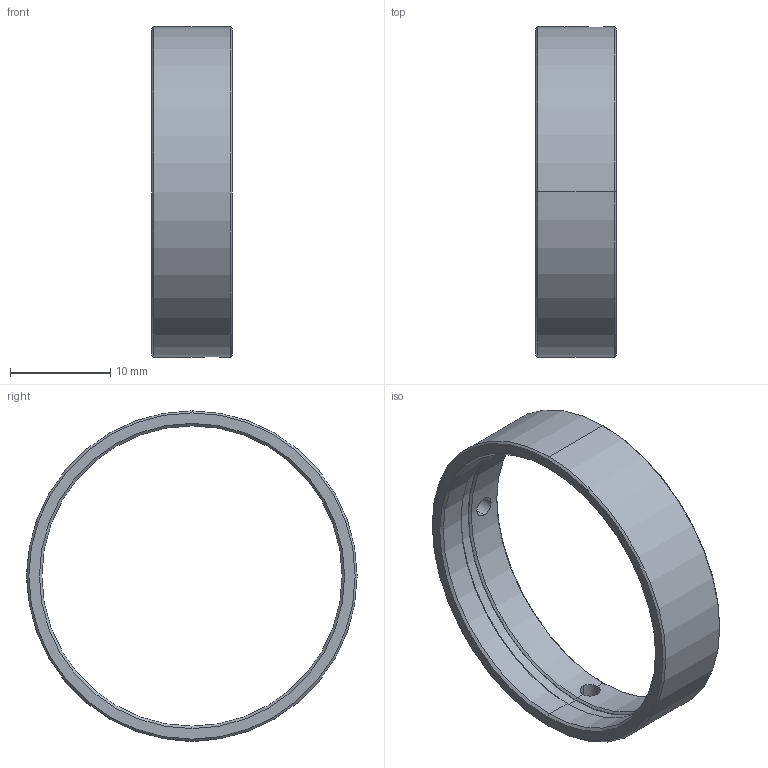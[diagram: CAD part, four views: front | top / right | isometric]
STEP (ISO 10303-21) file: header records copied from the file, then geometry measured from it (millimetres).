
FILE_DESCRIPTION (( 'STEP AP203' ), '1' );
FILE_NAME ('SV-FAD30-305.STEP', '2020-07-29T01:11:39', ( '' ), ( '' ), 'SwSTEP 2.0', 'SolidWorks 2020', '' );
FILE_SCHEMA (( 'CONFIG_CONTROL_DESIGN' ));
Length unit declared in the file: millimetre
Products named in the file (1): SV-FAD30-305
Bounding box: 8 x 33 x 33 mm (x, y, z)
Volume: 1140.5 mm3; surface area: 1861.8 mm2
Topology: 1 solids, 1 shells, 27 faces, 64 edges, 38 vertices
Faces by surface type: cylinder 12, cone 12, plane 3
Entity records: 969 total; most frequent: CARTESIAN_POINT 262, DIRECTION 134, ORIENTED_EDGE 128, EDGE_CURVE 64, AXIS2_PLACEMENT_3D 54, VERTEX_POINT 38, EDGE_LOOP 32, FACE_OUTER_BOUND 27
